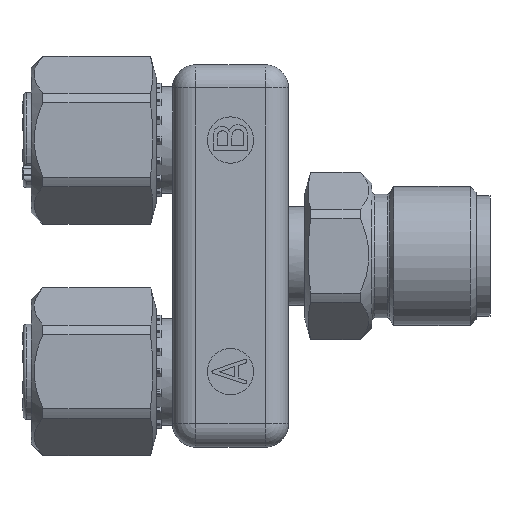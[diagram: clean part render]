
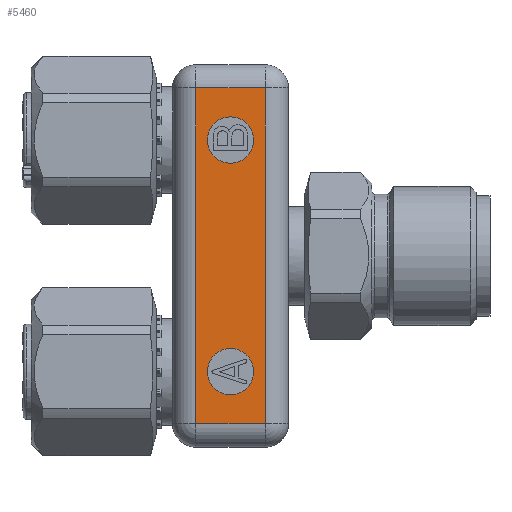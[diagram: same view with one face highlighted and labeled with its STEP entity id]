
A CAD part, top view. The second image highlights one B-rep face of the part: STEP entity #5460.
In plain terms, the highlighted planar face has unit normal (0, 0, 1).
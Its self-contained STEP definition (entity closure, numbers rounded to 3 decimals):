
#4586=PLANE('',#18873);
#4914=FACE_BOUND('',#7246,.T.);
#4915=FACE_BOUND('',#7247,.T.);
#4916=FACE_BOUND('',#7248,.T.);
#5460=ADVANCED_FACE('',(#4914,#4915,#4916),#4586,.T.);
#7246=EDGE_LOOP('',(#10379));
#7247=EDGE_LOOP('',(#10380));
#7248=EDGE_LOOP('',(#10381,#10382,#10383,#10384));
#8106=CIRCLE('',#18871,2.);
#8107=CIRCLE('',#18872,2.);
#10379=ORIENTED_EDGE('',*,*,#14867,.F.);
#10380=ORIENTED_EDGE('',*,*,#14868,.T.);
#10381=ORIENTED_EDGE('',*,*,#13808,.T.);
#10382=ORIENTED_EDGE('',*,*,#14869,.T.);
#10383=ORIENTED_EDGE('',*,*,#14861,.T.);
#10384=ORIENTED_EDGE('',*,*,#14870,.T.);
#12427=VERTEX_POINT('',#23345);
#12428=VERTEX_POINT('',#23347);
#13137=VERTEX_POINT('',#26359);
#13138=VERTEX_POINT('',#26363);
#13140=VERTEX_POINT('',#26387);
#13141=VERTEX_POINT('',#26389);
#13808=EDGE_CURVE('',#12428,#12427,#15840,.T.);
#14861=EDGE_CURVE('',#13138,#13137,#16425,.T.);
#14867=EDGE_CURVE('',#13140,#13140,#8106,.T.);
#14868=EDGE_CURVE('',#13141,#13141,#8107,.T.);
#14869=EDGE_CURVE('',#12427,#13138,#16428,.T.);
#14870=EDGE_CURVE('',#13137,#12428,#16429,.T.);
#15840=LINE('',#23346,#16942);
#16425=LINE('',#26375,#17543);
#16428=LINE('',#26390,#17546);
#16429=LINE('',#26391,#17547);
#16942=VECTOR('',#19474,1.);
#17543=VECTOR('',#21565,1.);
#17546=VECTOR('',#21588,1.);
#17547=VECTOR('',#21589,1.);
#18871=AXIS2_PLACEMENT_3D('',#26386,#21584,#21585);
#18872=AXIS2_PLACEMENT_3D('',#26388,#21586,#21587);
#18873=AXIS2_PLACEMENT_3D('',#26392,#21590,#21591);
#19474=DIRECTION('',(0.,1.,0.));
#21565=DIRECTION('',(0.,-1.,0.));
#21584=DIRECTION('',(0.,0.,1.));
#21585=DIRECTION('',(1.,0.,0.));
#21586=DIRECTION('',(0.,0.,-1.));
#21587=DIRECTION('',(1.,0.,0.));
#21588=DIRECTION('',(-1.,0.,0.));
#21589=DIRECTION('',(1.,0.,0.));
#21590=DIRECTION('',(0.,0.,1.));
#21591=DIRECTION('',(1.,0.,0.));
#23345=CARTESIAN_POINT('',(3.5,14.5,6.75));
#23346=CARTESIAN_POINT('',(3.5,16.5,6.75));
#23347=CARTESIAN_POINT('',(3.5,-14.5,6.75));
#26359=CARTESIAN_POINT('',(-2.5,-14.5,6.75));
#26363=CARTESIAN_POINT('',(-2.5,14.5,6.75));
#26375=CARTESIAN_POINT('',(-2.5,-16.5,6.75));
#26386=CARTESIAN_POINT('',(0.5,-10.,6.75));
#26387=CARTESIAN_POINT('',(2.5,-10.,6.75));
#26388=CARTESIAN_POINT('',(0.5,10.,6.75));
#26389=CARTESIAN_POINT('',(2.5,10.,6.75));
#26390=CARTESIAN_POINT('',(-2.5,14.5,6.75));
#26391=CARTESIAN_POINT('',(3.5,-14.5,6.75));
#26392=CARTESIAN_POINT('',(5.5,-16.5,6.75));
